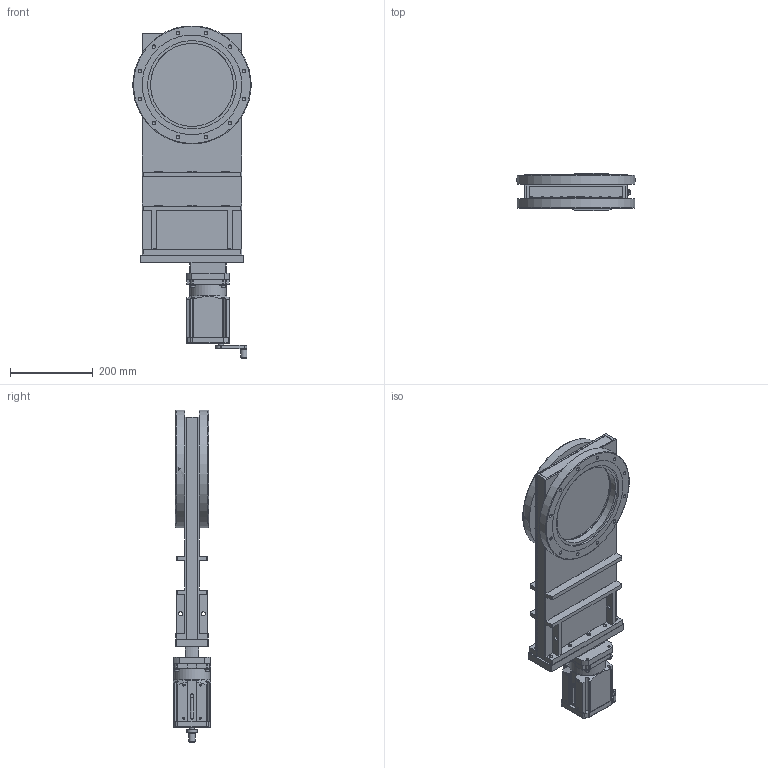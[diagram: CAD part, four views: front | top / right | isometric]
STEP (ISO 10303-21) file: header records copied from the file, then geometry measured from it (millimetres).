
FILE_DESCRIPTION(/* description */ (''),/* implementation_level */ '2;1');
FILE_NAME(/* name */ '1027195584_203.stp',/* time_stamp */ '2017-07-11T14:54:14+02:00',/* author */ (''),/* organization */ (''),/* preprocessor_version */ 'ST-DEVELOPER v15',/* originating_system */ 'SIEMENS PLM Software NX 9.0',/* authorisation */ '');
FILE_SCHEMA (('AP203_CONFIGURATION_CONTROLLED_3D_DESIGN_OF_MECHANICAL_PARTS_AND_ASSEMBLIES_MIM_LF { 1 0 10303 403 2 1 2}'));
Length unit declared in the file: millimetre
Products named in the file (42): n-6005-790; N-6198-006.1; N-5054-012.1; 78964-01.1; 78965-01.1; 79163-01.1; 834044_36427ID; 834044_36452ID; 834044_36451ID; 834044_36450ID; 834046_36449ID; 834046_36448ID; 834046_36447ID; 834046_36446ID; 834014_36444ID; 834014_36443ID; 834006_36441ID; 834001_36439ID; 834001_36438ID; 833986_36436ID; 833986_36429ID; 79156-01.2; n-6099-458.1; 79151-01.2; 205446.1; 206693-01.1; n-6099-511.1; 23964-01.1_36431ID; 23964-01.1_36434ID; 224811.1; 79157-01.2; 65313-01.1; 570870; 74628-01.3; 69130-01.2; 778871; 224810_MODEL; 79162-R1.1; 207954.1; 834047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
Assembly tree (60 placements, depth 4):
  899540
    889066
      834047
        833986_36429ID
        833986_36436ID
        834001_36438ID
        834001_36439ID
        834006_36441ID
        834014_36443ID
        834014_36444ID
        834046_36446ID
        834046_36447ID
        834046_36448ID
        834046_36449ID
        834044_36450ID
        834044_36451ID
        834044_36452ID
        834044_36427ID
      23964-01.1_36434ID
      23964-01.1_36431ID
      n-6099-511.1  x2
    778871  x10
    69130-01.2
    74628-01.3
    570870
    65313-01.1
    79157-01.2  x4
    224811.1  x4
    207954.1
      79162-R1.1
        79163-01.1
        78965-01.1
        78964-01.1
        N-5054-012.1
        N-6198-006.1
      206693-01.1
      205446.1
      224810_MODEL  x4
        n-6005-790
      79151-01.2
      n-6099-458.1
      79156-01.2
Bounding box: 285 x 90 x 800.61 mm (x, y, z)
Volume: 4655282.6 mm3; surface area: 1132067.1 mm2
Topology: 78 solids, 90 shells, 1784 faces, 4472 edges, 2956 vertices
Faces by surface type: plane 1123, cylinder 416, extrusion 108, cone 101, torus 35, bspline 1
Full cylindrical faces by diameter (mm): 2.1 x1, 2.8 x1, 3 x1, 3.3 x4, 4 x5, 4.35 x5, 4.5 x2, 4.625 x2, 4.96 x8, 5 x16, 5.4 x2, 5.85 x1, 5.97 x1, 5.994 x2, 6 x22, 6.1 x1, 6.15 x1, 6.45 x8, 7 x1, 7.1 x1, 8 x2, 8.25 x4, 8.3 x1, 8.36 x10, 8.4 x10, 8.45 x2, 8.5 x39, 8.75 x4, 8.982 x1, 10 x37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
Entity records: 53895 total; most frequent: CARTESIAN_POINT 13213, ORIENTED_EDGE 7006, DIRECTION 6485, EDGE_CURVE 3503, VERTEX_POINT 2512, VECTOR 2223, AXIS2_PLACEMENT_3D 2131, LINE 2115
